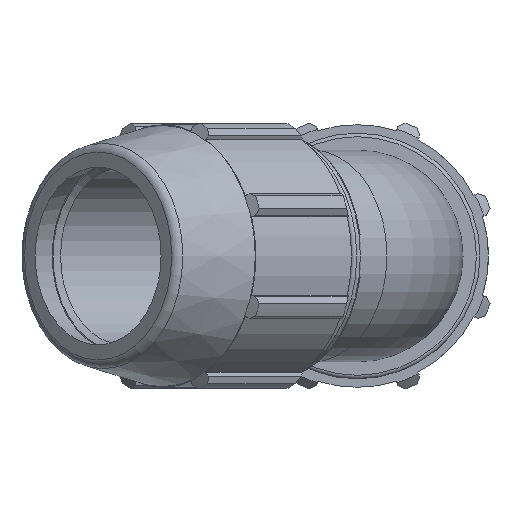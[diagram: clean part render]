
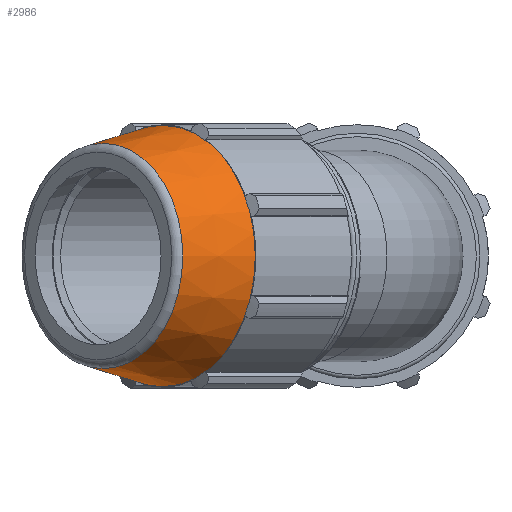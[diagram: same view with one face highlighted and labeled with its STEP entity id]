
A CAD part, left-side view. The second image highlights one B-rep face of the part: STEP entity #2986.
In plain terms, the highlighted conical face has half-angle 12 degrees and reference radius 77.555 mm.
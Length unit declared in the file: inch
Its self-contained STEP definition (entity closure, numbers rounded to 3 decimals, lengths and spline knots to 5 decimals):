
#342=LINE('',#5121,#550);
#550=VECTOR('',#4115,3.05335);
#640=CONICAL_SURFACE('',#3307,3.05335,0.209);
#782=FACE_OUTER_BOUND('',#936,.T.);
#936=EDGE_LOOP('',(#2628,#2629,#2630,#2631,#2632,#2633,#2634));
#1058=CIRCLE('',#3236,3.29912);
#1059=CIRCLE('',#3237,3.29912);
#1095=CIRCLE('',#3303,2.84539);
#1096=CIRCLE('',#3304,2.84539);
#1097=CIRCLE('',#3305,2.84539);
#1340=VERTEX_POINT('',#4945);
#1341=VERTEX_POINT('',#4946);
#1391=VERTEX_POINT('',#5112);
#1392=VERTEX_POINT('',#5114);
#1393=VERTEX_POINT('',#5116);
#1730=EDGE_CURVE('',#1340,#1341,#1058,.T.);
#1731=EDGE_CURVE('',#1341,#1340,#1059,.T.);
#1817=EDGE_CURVE('',#1391,#1392,#1095,.T.);
#1818=EDGE_CURVE('',#1392,#1393,#1096,.T.);
#1819=EDGE_CURVE('',#1393,#1391,#1097,.T.);
#1821=EDGE_CURVE('',#1392,#1341,#342,.T.);
#2628=ORIENTED_EDGE('',*,*,#1819,.F.);
#2629=ORIENTED_EDGE('',*,*,#1818,.F.);
#2630=ORIENTED_EDGE('',*,*,#1821,.T.);
#2631=ORIENTED_EDGE('',*,*,#1731,.T.);
#2632=ORIENTED_EDGE('',*,*,#1730,.T.);
#2633=ORIENTED_EDGE('',*,*,#1821,.F.);
#2634=ORIENTED_EDGE('',*,*,#1817,.F.);
#2986=ADVANCED_FACE('',(#782),#640,.T.);
#3236=AXIS2_PLACEMENT_3D('',#4947,#3921,#3922);
#3237=AXIS2_PLACEMENT_3D('',#4948,#3923,#3924);
#3303=AXIS2_PLACEMENT_3D('',#5115,#4105,#4106);
#3304=AXIS2_PLACEMENT_3D('',#5117,#4107,#4108);
#3305=AXIS2_PLACEMENT_3D('',#5118,#4109,#4110);
#3307=AXIS2_PLACEMENT_3D('',#5120,#4113,#4114);
#3921=DIRECTION('center_axis',(-0.707,0.707,0.));
#3922=DIRECTION('ref_axis',(0.,0.,-1.));
#3923=DIRECTION('center_axis',(-0.707,0.707,0.));
#3924=DIRECTION('ref_axis',(0.,0.,-1.));
#4105=DIRECTION('center_axis',(-0.707,0.707,0.));
#4106=DIRECTION('ref_axis',(0.707,0.707,0.));
#4107=DIRECTION('center_axis',(-0.707,0.707,0.));
#4108=DIRECTION('ref_axis',(0.707,0.707,0.));
#4109=DIRECTION('center_axis',(-0.707,0.707,0.));
#4110=DIRECTION('ref_axis',(0.707,0.707,0.));
#4113=DIRECTION('center_axis',(0.707,-0.707,0.));
#4114=DIRECTION('ref_axis',(-0.707,-0.707,0.));
#4115=DIRECTION('',(0.839,-0.545,0.));
#4945=CARTESIAN_POINT('',(-7.23838,2.57273,0.));
#4946=CARTESIAN_POINT('',(-2.57273,7.23838,0.));
#4947=CARTESIAN_POINT('Origin',(-4.90555,4.90555,0.));
#4948=CARTESIAN_POINT('Origin',(-4.90555,4.90555,0.));
#5112=CARTESIAN_POINT('',(-6.41494,6.41494,2.84539));
#5114=CARTESIAN_POINT('',(-4.40294,8.42694,0.));
#5115=CARTESIAN_POINT('Origin',(-6.41494,6.41494,0.));
#5116=CARTESIAN_POINT('',(-8.42694,4.40294,0.));
#5117=CARTESIAN_POINT('Origin',(-6.41494,6.41494,0.));
#5118=CARTESIAN_POINT('Origin',(-6.41494,6.41494,0.));
#5120=CARTESIAN_POINT('Origin',(-5.72315,5.72315,0.));
#5121=CARTESIAN_POINT('',(-3.5641,7.88219,0.));
